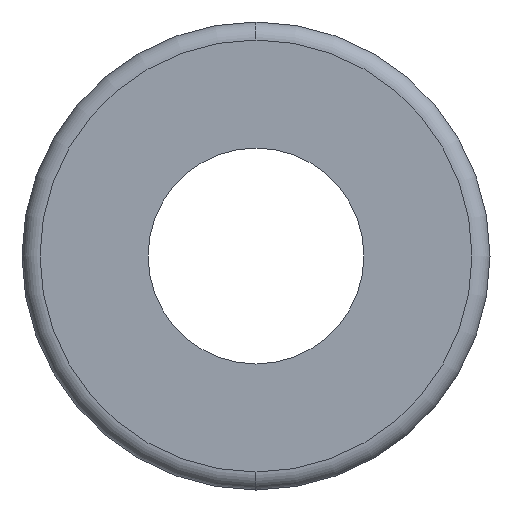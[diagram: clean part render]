
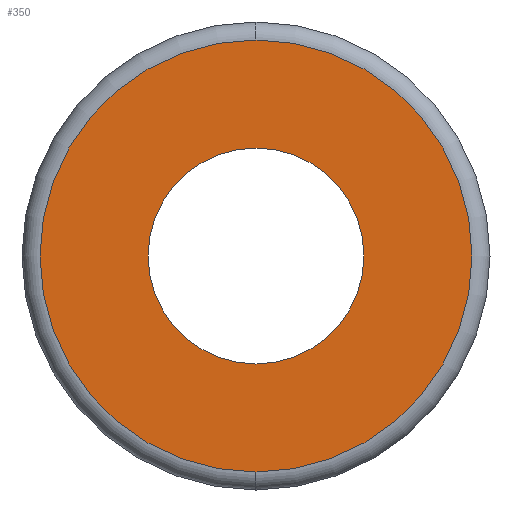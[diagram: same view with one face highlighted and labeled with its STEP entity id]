
A CAD part, left-side view. The second image highlights one B-rep face of the part: STEP entity #350.
In plain terms, the highlighted planar face has unit normal (-1, 0, 0).
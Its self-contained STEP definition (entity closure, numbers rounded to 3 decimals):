
#3 = EDGE_CURVE ( 'NONE', #156, #206, #36, .T. ) ;
#30 = DIRECTION ( 'NONE',  ( 0., 0., 1. ) ) ;
#36 = CIRCLE ( 'NONE', #214, 6. ) ;
#52 = CARTESIAN_POINT ( 'NONE',  ( 0., 0., 0. ) ) ;
#88 = CARTESIAN_POINT ( 'NONE',  ( 0., 0., 6. ) ) ;
#120 = CARTESIAN_POINT ( 'NONE',  ( 0., 6., 0. ) ) ;
#126 = CARTESIAN_POINT ( 'NONE',  ( 0., 0., 0. ) ) ;
#129 = DIRECTION ( 'NONE',  ( 0., 0., -1. ) ) ;
#156 = VERTEX_POINT ( 'NONE', #330 ) ;
#158 = PLANE ( 'NONE',  #258 ) ;
#183 = DIRECTION ( 'NONE',  ( 0., 0., -1. ) ) ;
#190 = DIRECTION ( 'NONE',  ( -1., 0., 0. ) ) ;
#191 = CIRCLE ( 'NONE', #343, 12. ) ;
#194 = DIRECTION ( 'NONE',  ( 0., 0., 1. ) ) ;
#199 = CARTESIAN_POINT ( 'NONE',  ( 0., 0., 12. ) ) ;
#206 = VERTEX_POINT ( 'NONE', #88 ) ;
#214 = AXIS2_PLACEMENT_3D ( 'NONE', #226, #261, #194 ) ;
#217 = EDGE_LOOP ( 'NONE', ( #370, #358 ) ) ;
#226 = CARTESIAN_POINT ( 'NONE',  ( 0., 0., 0. ) ) ;
#236 = FACE_OUTER_BOUND ( 'NONE', #217, .T. ) ;
#237 = EDGE_CURVE ( 'NONE', #206, #156, #355, .T. ) ;
#241 = VERTEX_POINT ( 'NONE', #199 ) ;
#242 = DIRECTION ( 'NONE',  ( -1., 0., 0. ) ) ;
#258 = AXIS2_PLACEMENT_3D ( 'NONE', #120, #283, #373 ) ;
#261 = DIRECTION ( 'NONE',  ( -1., 0., 0. ) ) ;
#265 = ORIENTED_EDGE ( 'NONE', *, *, #237, .F. ) ;
#272 = CIRCLE ( 'NONE', #408, 12. ) ;
#283 = DIRECTION ( 'NONE',  ( 1., 0., 0. ) ) ;
#287 = EDGE_CURVE ( 'NONE', #302, #241, #272, .T. ) ;
#302 = VERTEX_POINT ( 'NONE', #379 ) ;
#311 = EDGE_CURVE ( 'NONE', #241, #302, #191, .T. ) ;
#320 = AXIS2_PLACEMENT_3D ( 'NONE', #52, #417, #30 ) ;
#323 = FACE_BOUND ( 'NONE', #334, .T. ) ;
#330 = CARTESIAN_POINT ( 'NONE',  ( 0., 0., -6. ) ) ;
#334 = EDGE_LOOP ( 'NONE', ( #265, #405 ) ) ;
#343 = AXIS2_PLACEMENT_3D ( 'NONE', #344, #242, #129 ) ;
#344 = CARTESIAN_POINT ( 'NONE',  ( 0., 0., 0. ) ) ;
#350 = ADVANCED_FACE ( 'NONE', ( #236, #323 ), #158, .F. ) ;
#355 = CIRCLE ( 'NONE', #320, 6. ) ;
#358 = ORIENTED_EDGE ( 'NONE', *, *, #311, .T. ) ;
#370 = ORIENTED_EDGE ( 'NONE', *, *, #287, .T. ) ;
#373 = DIRECTION ( 'NONE',  ( 0., 0., -1. ) ) ;
#379 = CARTESIAN_POINT ( 'NONE',  ( 0., 0., -12. ) ) ;
#405 = ORIENTED_EDGE ( 'NONE', *, *, #3, .F. ) ;
#408 = AXIS2_PLACEMENT_3D ( 'NONE', #126, #190, #183 ) ;
#417 = DIRECTION ( 'NONE',  ( -1., 0., 0. ) ) ;
